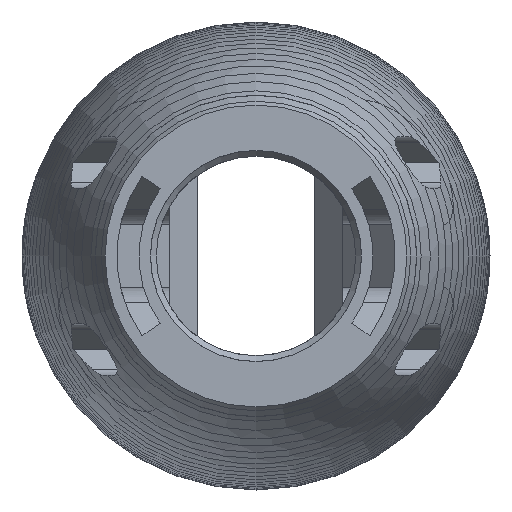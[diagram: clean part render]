
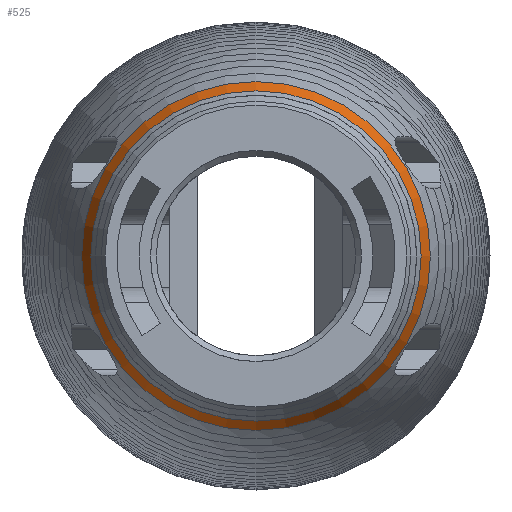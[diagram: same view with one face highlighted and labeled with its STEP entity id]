
A CAD part, left-side view. The second image highlights one B-rep face of the part: STEP entity #525.
In plain terms, the highlighted conical face has half-angle 24.284 degrees and reference radius 14.118 mm.
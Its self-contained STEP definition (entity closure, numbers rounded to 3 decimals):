
#459 = CONICAL_SURFACE('',#460,13.229,0.47);
#460 = AXIS2_PLACEMENT_3D('',#461,#462,#463);
#461 = CARTESIAN_POINT('',(10.5,0.,0.));
#462 = DIRECTION('',(1.,0.,0.));
#463 = DIRECTION('',(-0.,1.,0.));
#475 = VERTEX_POINT('',#476);
#476 = CARTESIAN_POINT('',(12.25,14.118,0.));
#499 = EDGE_CURVE('',#475,#475,#500,.T.);
#500 = SURFACE_CURVE('',#501,(#506,#513),.PCURVE_S1.);
#501 = CIRCLE('',#502,14.118);
#502 = AXIS2_PLACEMENT_3D('',#503,#504,#505);
#503 = CARTESIAN_POINT('',(12.25,0.,0.)
  );
#504 = DIRECTION('',(-1.,0.,0.));
#505 = DIRECTION('',(0.,1.,0.));
#506 = PCURVE('',#459,#507);
#507 = DEFINITIONAL_REPRESENTATION('',(#508),#512);
#508 = LINE('',#509,#510);
#509 = CARTESIAN_POINT('',(6.283,1.75));
#510 = VECTOR('',#511,1.);
#511 = DIRECTION('',(-1.,-0.));
#512 = ( GEOMETRIC_REPRESENTATION_CONTEXT(2) 
PARAMETRIC_REPRESENTATION_CONTEXT() REPRESENTATION_CONTEXT('2D SPACE',''
  ) );
#513 = PCURVE('',#514,#519);
#514 = CONICAL_SURFACE('',#515,14.118,0.424);
#515 = AXIS2_PLACEMENT_3D('',#516,#517,#518);
#516 = CARTESIAN_POINT('',(12.25,0.,0.));
#517 = DIRECTION('',(1.,0.,0.));
#518 = DIRECTION('',(-0.,1.,0.));
#519 = DEFINITIONAL_REPRESENTATION('',(#520),#524);
#520 = LINE('',#521,#522);
#521 = CARTESIAN_POINT('',(6.283,0.));
#522 = VECTOR('',#523,1.);
#523 = DIRECTION('',(-1.,-0.));
#524 = ( GEOMETRIC_REPRESENTATION_CONTEXT(2) 
PARAMETRIC_REPRESENTATION_CONTEXT() REPRESENTATION_CONTEXT('2D SPACE',''
  ) );
#525 = ADVANCED_FACE('',(#526),#514,.T.);
#526 = FACE_BOUND('',#527,.T.);
#527 = EDGE_LOOP('',(#528,#551,#552,#553));
#528 = ORIENTED_EDGE('',*,*,#529,.F.);
#529 = EDGE_CURVE('',#475,#530,#532,.T.);
#530 = VERTEX_POINT('',#531);
#531 = CARTESIAN_POINT('',(14.,14.907,0.));
#532 = SEAM_CURVE('',#533,(#537,#544),.PCURVE_S1.);
#533 = LINE('',#534,#535);
#534 = CARTESIAN_POINT('',(12.25,14.118,0.));
#535 = VECTOR('',#536,1.);
#536 = DIRECTION('',(0.912,0.411,0.));
#537 = PCURVE('',#514,#538);
#538 = DEFINITIONAL_REPRESENTATION('',(#539),#543);
#539 = LINE('',#540,#541);
#540 = CARTESIAN_POINT('',(0.,0.));
#541 = VECTOR('',#542,1.);
#542 = DIRECTION('',(0.,1.));
#543 = ( GEOMETRIC_REPRESENTATION_CONTEXT(2) 
PARAMETRIC_REPRESENTATION_CONTEXT() REPRESENTATION_CONTEXT('2D SPACE',''
  ) );
#544 = PCURVE('',#514,#545);
#545 = DEFINITIONAL_REPRESENTATION('',(#546),#550);
#546 = LINE('',#547,#548);
#547 = CARTESIAN_POINT('',(6.283,0.));
#548 = VECTOR('',#549,1.);
#549 = DIRECTION('',(0.,1.));
#550 = ( GEOMETRIC_REPRESENTATION_CONTEXT(2) 
PARAMETRIC_REPRESENTATION_CONTEXT() REPRESENTATION_CONTEXT('2D SPACE',''
  ) );
#551 = ORIENTED_EDGE('',*,*,#499,.F.);
#552 = ORIENTED_EDGE('',*,*,#529,.T.);
#553 = ORIENTED_EDGE('',*,*,#554,.T.);
#554 = EDGE_CURVE('',#530,#530,#555,.T.);
#555 = SURFACE_CURVE('',#556,(#561,#568),.PCURVE_S1.);
#556 = CIRCLE('',#557,14.907);
#557 = AXIS2_PLACEMENT_3D('',#558,#559,#560);
#558 = CARTESIAN_POINT('',(14.,0.,0.));
#559 = DIRECTION('',(-1.,0.,0.));
#560 = DIRECTION('',(0.,1.,0.));
#561 = PCURVE('',#514,#562);
#562 = DEFINITIONAL_REPRESENTATION('',(#563),#567);
#563 = LINE('',#564,#565);
#564 = CARTESIAN_POINT('',(6.283,1.75));
#565 = VECTOR('',#566,1.);
#566 = DIRECTION('',(-1.,-0.));
#567 = ( GEOMETRIC_REPRESENTATION_CONTEXT(2) 
PARAMETRIC_REPRESENTATION_CONTEXT() REPRESENTATION_CONTEXT('2D SPACE',''
  ) );
#568 = PCURVE('',#569,#574);
#569 = CONICAL_SURFACE('',#570,14.907,0.383);
#570 = AXIS2_PLACEMENT_3D('',#571,#572,#573);
#571 = CARTESIAN_POINT('',(14.,0.,0.));
#572 = DIRECTION('',(1.,0.,0.));
#573 = DIRECTION('',(-0.,1.,0.));
#574 = DEFINITIONAL_REPRESENTATION('',(#575),#579);
#575 = LINE('',#576,#577);
#576 = CARTESIAN_POINT('',(6.283,0.));
#577 = VECTOR('',#578,1.);
#578 = DIRECTION('',(-1.,-0.));
#579 = ( GEOMETRIC_REPRESENTATION_CONTEXT(2) 
PARAMETRIC_REPRESENTATION_CONTEXT() REPRESENTATION_CONTEXT('2D SPACE',''
  ) );
